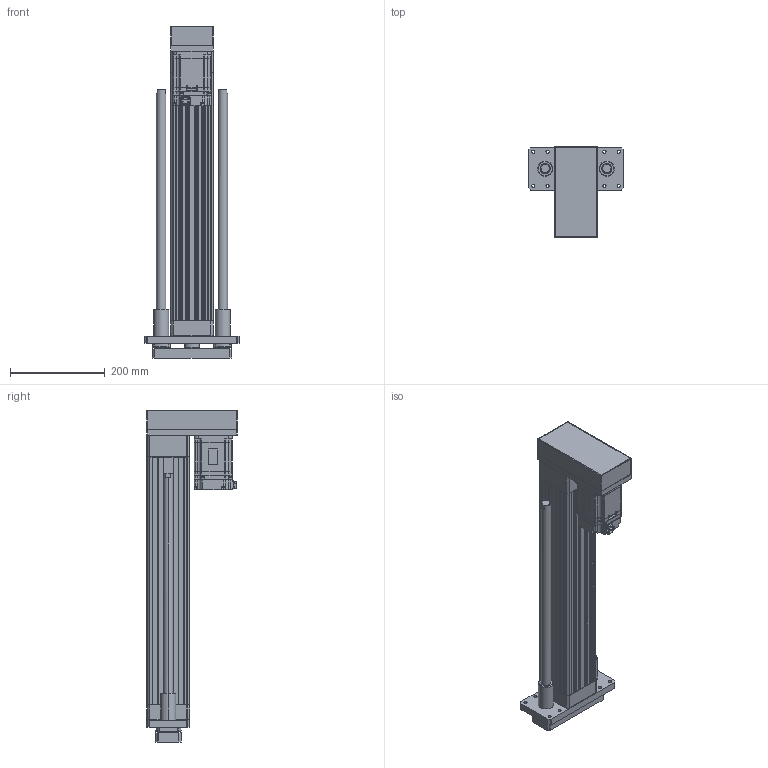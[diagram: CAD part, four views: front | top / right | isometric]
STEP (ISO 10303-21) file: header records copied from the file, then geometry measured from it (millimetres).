
FILE_DESCRIPTION (( 'STEP AP203' ), '1' );
FILE_NAME ('ANS090R-GP400-05(10)(20)-W75.STEP', '2019-03-02T09:02:13', ( 'user' ), ( '' ), 'SwSTEP 2.0', 'SolidWorks 2013', '' );
FILE_SCHEMA (( 'CONFIG_CONTROL_DESIGN' ));
Length unit declared in the file: millimetre
Products named in the file (4): ANS090R GP400 VER2; SGMJV_08A_A21; ANS090 ROD ST400-G; ANS090R-GP400-05(10)(20)-W75
Assembly tree (3 placements, depth 2):
  ANS090R-GP400-05(10)(20)-W75
    ANS090R GP400 VER2
    SGMJV_08A_A21
    ANS090 ROD ST400-G
Bounding box: 200 x 190 x 700 mm (x, y, z)
Volume: 4294227.1 mm3; surface area: 836139.2 mm2
Topology: 3 solids, 7 shells, 1393 faces, 3620 edges, 2322 vertices
Faces by surface type: plane 779, cylinder 454, cone 144, sphere 8, torus 4, bspline 4
Entity records: 43156 total; most frequent: CARTESIAN_POINT 7975, DIRECTION 7322, ORIENTED_EDGE 7200, EDGE_CURVE 3600, AXIS2_PLACEMENT_3D 2441, VECTOR 2440, LINE 2440, VERTEX_POINT 2322
